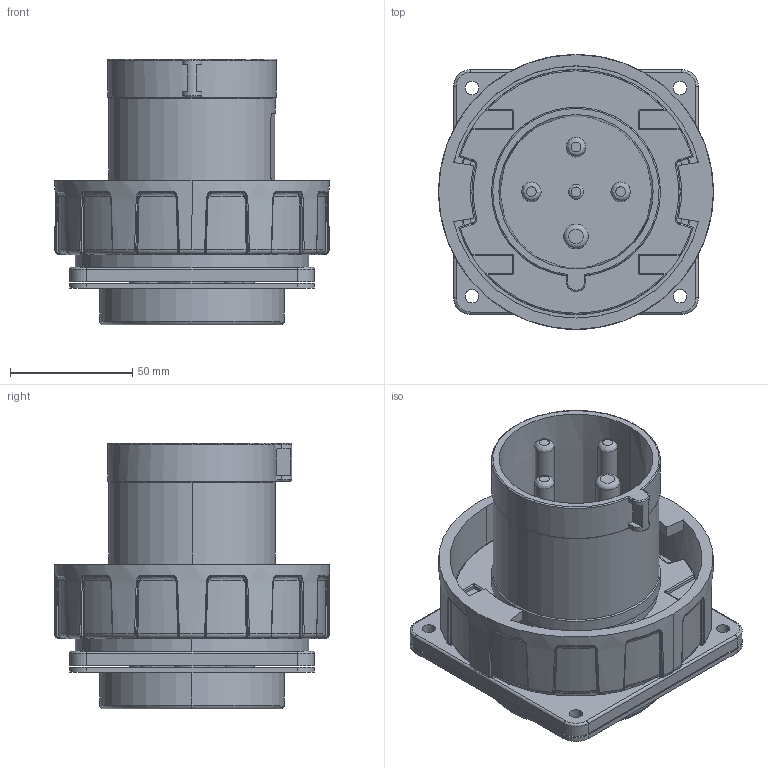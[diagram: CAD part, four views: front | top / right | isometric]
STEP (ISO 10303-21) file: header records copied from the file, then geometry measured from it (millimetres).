
FILE_DESCRIPTION(('FreeCAD Model'),'2;1');
FILE_NAME('Open CASCADE Shape Model','2026-02-04T11:22:26',(''),(''), 'Open CASCADE STEP processor 7.8','FreeCAD','Unknown');
FILE_SCHEMA(('AUTOMOTIVE_DESIGN { 1 0 10303 214 1 1 1 1 }'));
Length unit declared in the file: millimetre
Products named in the file (12): TL3L63643; Tomada; Pino L3; Pino Terra; Pino L2; Pino L1; Pino guia; Base interna; Terminais; Encaixe tomada; Proteção terminais; Base externa
Assembly tree (11 placements, depth 2):
  TL3L63643
    Tomada
    Pino L3
    Pino Terra
    Pino L2
    Pino L1
    Pino guia
    Base interna
    Terminais
    Encaixe tomada
    Proteção terminais
    Base externa
Bounding box: 112.2 x 112.2 x 108.5 mm (x, y, z)
Volume: 251758.9 mm3; surface area: 154683.7 mm2
Topology: 11 solids, 11 shells, 1213 faces, 3173 edges, 2002 vertices
Faces by surface type: plane 583, cylinder 307, bspline 174, torus 87, cone 52, sphere 8, extrusion 2
Full cylindrical faces by diameter (mm): 5.5 x4, 6 x1, 8 x3, 10 x1, 14.5 x1, 74 x1, 78 x1
Entity records: 45221 total; most frequent: CARTESIAN_POINT 16630, ORIENTED_EDGE 6298, DIRECTION 5307, EDGE_CURVE 3149, VERTEX_POINT 2002, AXIS2_PLACEMENT_3D 1829, VECTOR 1649, LINE 1647
